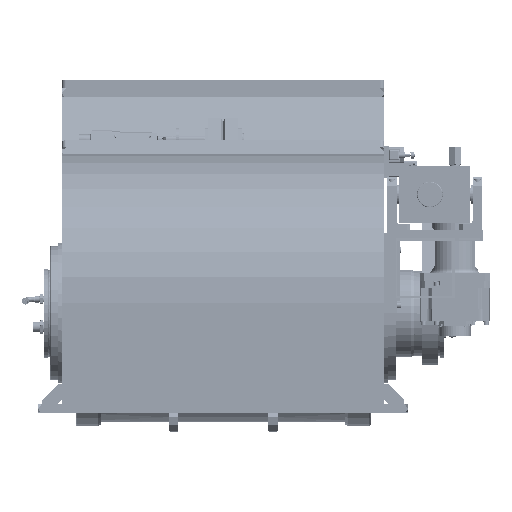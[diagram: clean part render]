
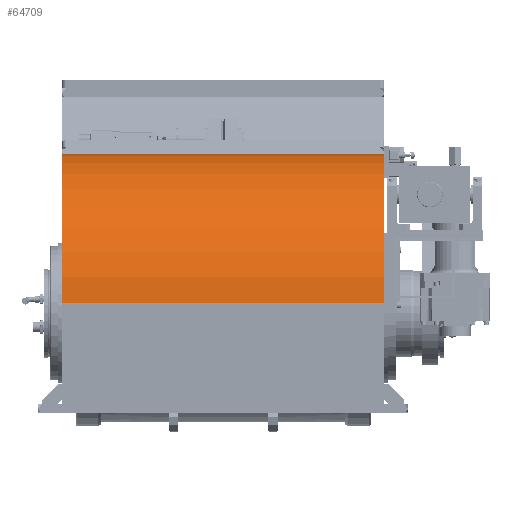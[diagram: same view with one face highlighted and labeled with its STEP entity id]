
A CAD part, front view. The second image highlights one B-rep face of the part: STEP entity #64709.
In plain terms, the highlighted cylindrical face has radius 375 mm (diameter 750 mm), a partial arc.
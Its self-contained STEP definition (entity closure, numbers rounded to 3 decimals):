
#5004=FACE_OUTER_BOUND('',#8773,.T.);
#8773=EDGE_LOOP('',(#46706,#46707,#46708,#46709));
#13016=CIRCLE('',#69592,375.);
#13019=CIRCLE('',#69597,375.);
#17003=LINE('',#100949,#22126);
#17005=LINE('',#100956,#22128);
#22126=VECTOR('',#80937,10.);
#22128=VECTOR('',#80947,10.);
#27734=VERTEX_POINT('',#100932);
#27737=VERTEX_POINT('',#100939);
#27738=VERTEX_POINT('',#100944);
#27739=VERTEX_POINT('',#100951);
#34884=EDGE_CURVE('',#27738,#27734,#13016,.T.);
#34886=EDGE_CURVE('',#27737,#27734,#17003,.T.);
#34889=EDGE_CURVE('',#27737,#27739,#13019,.T.);
#34890=EDGE_CURVE('',#27739,#27738,#17005,.T.);
#46706=ORIENTED_EDGE('',*,*,#34890,.F.);
#46707=ORIENTED_EDGE('',*,*,#34889,.F.);
#46708=ORIENTED_EDGE('',*,*,#34886,.T.);
#46709=ORIENTED_EDGE('',*,*,#34884,.F.);
#59418=CYLINDRICAL_SURFACE('',#69598,375.);
#64709=ADVANCED_FACE('',(#5004),#59418,.T.);
#69592=AXIS2_PLACEMENT_3D('',#100946,#80931,#80932);
#69597=AXIS2_PLACEMENT_3D('',#100954,#80943,#80944);
#69598=AXIS2_PLACEMENT_3D('',#100955,#80945,#80946);
#80931=DIRECTION('center_axis',(1.,0.,0.));
#80932=DIRECTION('ref_axis',(0.,0.012,1.));
#80937=DIRECTION('',(1.,0.,0.));
#80943=DIRECTION('center_axis',(-1.,0.,0.));
#80944=DIRECTION('ref_axis',(0.,-1.,0.));
#80945=DIRECTION('center_axis',(-1.,0.,0.));
#80946=DIRECTION('ref_axis',(0.,-1.,0.));
#80947=DIRECTION('',(1.,0.,0.));
#100932=CARTESIAN_POINT('',(644.081,-781.37,217.));
#100939=CARTESIAN_POINT('',(-169.919,-781.37,217.));
#100944=CARTESIAN_POINT('',(644.081,-407.562,591.998));
#100946=CARTESIAN_POINT('Origin',(644.081,-406.37,217.));
#100949=CARTESIAN_POINT('',(237.081,-781.37,217.));
#100951=CARTESIAN_POINT('',(-169.919,-407.562,591.998));
#100954=CARTESIAN_POINT('Origin',(-169.919,-406.37,217.));
#100955=CARTESIAN_POINT('Origin',(237.081,-406.37,217.));
#100956=CARTESIAN_POINT('',(237.081,-407.562,591.998));
